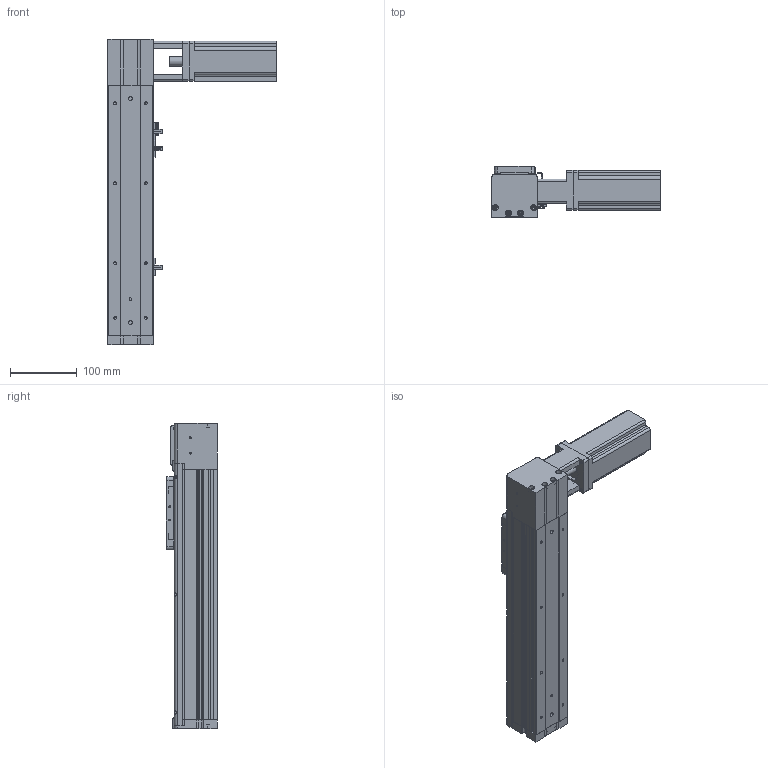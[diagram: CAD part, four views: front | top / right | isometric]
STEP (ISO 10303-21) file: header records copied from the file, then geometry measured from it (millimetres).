
FILE_DESCRIPTION (( 'STEP AP214' ), '1' );
FILE_NAME ('KSD68BS-S200-MRT-CR.STEP', '2019-08-27T06:52:48', ( '微软用户' ), ( '微软中国' ), 'SwSTEP 2.0', 'SolidWorks 2014', '' );
FILE_SCHEMA (( 'AUTOMOTIVE_DESIGN' ));
Length unit declared in the file: millimetre
Products named in the file (13): KSD68BS-S200-MRT-CR; KSD68BS 200行程底板全封闭; 台达ECMA－C20604AS伺服电机（400W); U倰嫖萇EEㄜSX672; 感应片68宽全封闭; 68单导轨全封闭同步带安装板; 68单导轨全封闭同步带电机座左; 68宽单导轨全封闭同步带端板; KSD68BS 200行程侧板全封闭; 68宽单导轨全封闭丝杆传动安装板1防护罩; 68遵裔啣揤啣1; KSD68BS 200行程盖板全封闭; 100遵鎮湛假蚾啣1
Assembly tree (16 placements, depth 2):
  KSD68BS-S200-MRT-CR
    KSD68BS 200行程底板全封闭
    台达ECMA－C20604AS伺服电机（400W)
    U倰嫖萇EEㄜSX672  x3
    感应片68宽全封闭
    68单导轨全封闭同步带安装板
    68单导轨全封闭同步带电机座左
    68宽单导轨全封闭同步带端板
    KSD68BS 200行程侧板全封闭  x2
    68宽单导轨全封闭丝杆传动安装板1防护罩
    68遵裔啣揤啣1  x2
    KSD68BS 200行程盖板全封闭
    100遵鎮湛假蚾啣1
Bounding box: 252.7 x 77 x 458.1 mm (x, y, z)
Volume: 1408106.4 mm3; surface area: 424574.3 mm2
Topology: 17 solids, 17 shells, 1287 faces, 3608 edges, 2320 vertices
Faces by surface type: plane 594, cylinder 565, cone 128
Entity records: 39354 total; most frequent: CARTESIAN_POINT 6601, DIRECTION 5903, ORIENTED_EDGE 5668, EDGE_CURVE 2834, AXIS2_PLACEMENT_3D 2090, VERTEX_POINT 1858, VECTOR 1723, LINE 1723
